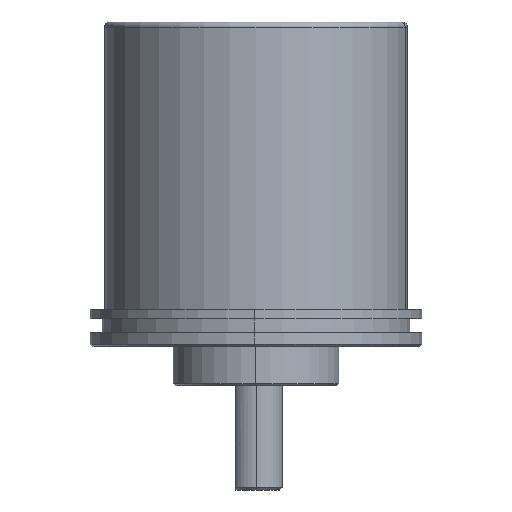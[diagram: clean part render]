
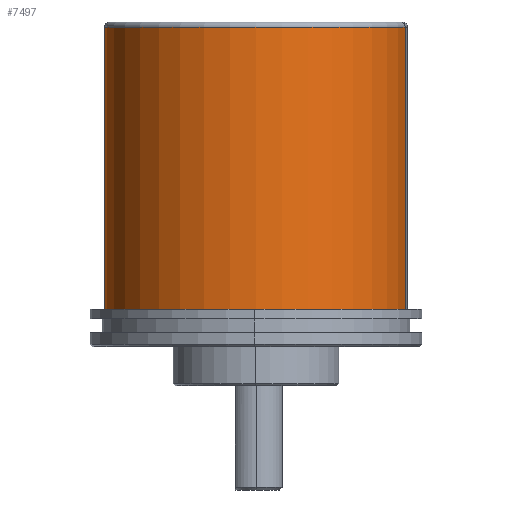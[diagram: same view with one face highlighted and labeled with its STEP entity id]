
A CAD part, left-side view. The second image highlights one B-rep face of the part: STEP entity #7497.
In plain terms, the highlighted cylindrical face has radius 29 mm (diameter 58 mm), a partial arc.
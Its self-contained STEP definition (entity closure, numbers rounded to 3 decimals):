
#1038 = DIRECTION ( 'NONE',  ( 0., 0., 1. ) ) ;
#1039 = VECTOR ( 'NONE', #1038, 1000. ) ;
#1040 = CARTESIAN_POINT ( 'NONE',  ( 5.036, 28.559, 34.55 ) ) ;
#1041 = LINE ( 'NONE', #1040, #1039 ) ;
#1195 = CARTESIAN_POINT ( 'NONE',  ( 5.036, 28.559, 34.55 ) ) ;
#1197 = CARTESIAN_POINT ( 'NONE',  ( -5.036, -28.559, 34.55 ) ) ;
#1207 = DIRECTION ( 'NONE',  ( 0., 0., 1. ) ) ;
#1208 = VECTOR ( 'NONE', #1207, 1000. ) ;
#1209 = CARTESIAN_POINT ( 'NONE',  ( -5.036, -28.559, 34.55 ) ) ;
#1210 = LINE ( 'NONE', #1209, #1208 ) ;
#7495 = EDGE_LOOP ( 'NONE', ( #7503, #7512, #7498, #7500 ) ) ;
#7497 = ADVANCED_FACE ( 'NONE', ( #26432 ), #26460, .T. ) ;
#7498 = ORIENTED_EDGE ( 'NONE', *, *, #7806, .T. ) ;
#7500 = ORIENTED_EDGE ( 'NONE', *, *, #7508, .T. ) ;
#7503 = ORIENTED_EDGE ( 'NONE', *, *, #7757, .F. ) ;
#7508 = EDGE_CURVE ( 'NONE', #7736, #7740, #26491, .T. ) ;
#7511 = EDGE_CURVE ( 'NONE', #7815, #7814, #26486, .T. ) ;
#7512 = ORIENTED_EDGE ( 'NONE', *, *, #7511, .F. ) ;
#7736 = VERTEX_POINT ( 'NONE', #27989 ) ;
#7740 = VERTEX_POINT ( 'NONE', #27983 ) ;
#7757 = EDGE_CURVE ( 'NONE', #7814, #7740, #1041, .T. ) ;
#7806 = EDGE_CURVE ( 'NONE', #7815, #7736, #1210, .T. ) ;
#7814 = VERTEX_POINT ( 'NONE', #1195 ) ;
#7815 = VERTEX_POINT ( 'NONE', #1197 ) ;
#26432 = FACE_OUTER_BOUND ( 'NONE', #7495, .T. ) ;
#26450 = CARTESIAN_POINT ( 'NONE',  ( 0., 0., 88.55 ) ) ;
#26457 = DIRECTION ( 'NONE',  ( -0.174, -0.985, 0. ) ) ;
#26458 = DIRECTION ( 'NONE',  ( 0., 0., 1. ) ) ;
#26459 = AXIS2_PLACEMENT_3D ( 'NONE', #26462, #26458, #26457 ) ;
#26460 = CYLINDRICAL_SURFACE ( 'NONE', #26459, 29. ) ;
#26462 = CARTESIAN_POINT ( 'NONE',  ( 0., 0., 34.55 ) ) ;
#26482 = DIRECTION ( 'NONE',  ( 0.174, 0.985, 0. ) ) ;
#26483 = DIRECTION ( 'NONE',  ( 0., 0., -1. ) ) ;
#26484 = CARTESIAN_POINT ( 'NONE',  ( 0., 0., 34.55 ) ) ;
#26485 = AXIS2_PLACEMENT_3D ( 'NONE', #26484, #26483, #26482 ) ;
#26486 = CIRCLE ( 'NONE', #26485, 29. ) ;
#26488 = DIRECTION ( 'NONE',  ( 0.174, 0.985, 0. ) ) ;
#26489 = DIRECTION ( 'NONE',  ( 0., 0., -1. ) ) ;
#26490 = AXIS2_PLACEMENT_3D ( 'NONE', #26450, #26489, #26488 ) ;
#26491 = CIRCLE ( 'NONE', #26490, 29. ) ;
#27983 = CARTESIAN_POINT ( 'NONE',  ( 5.036, 28.559, 88.55 ) ) ;
#27989 = CARTESIAN_POINT ( 'NONE',  ( -5.036, -28.559, 88.55 ) ) ;
